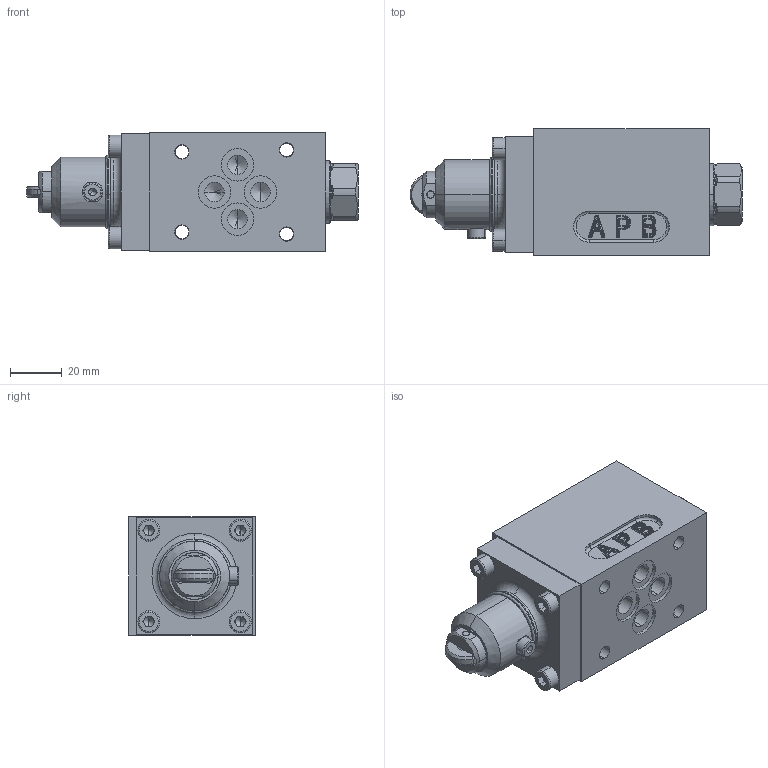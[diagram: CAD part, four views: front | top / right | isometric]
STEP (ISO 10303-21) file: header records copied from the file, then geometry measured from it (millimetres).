
FILE_DESCRIPTION (( 'STEP AP214' ), '1' );
FILE_NAME ('WDTFA06-4_2-Aside.STEP', '2018-06-13T05:15:58', ( '' ), ( '' ), 'SwSTEP 2.0', 'SolidWorks 2016', '' );
FILE_SCHEMA (( 'AUTOMOTIVE_DESIGN' ));
Length unit declared in the file: millimetre
Products named in the file (2): WDTFA06-4_2-Aside
Bounding box: 128.37 x 49 x 46 mm (x, y, z)
Volume: 188345.4 mm3; surface area: 33441.8 mm2
Topology: 4 solids, 10 shells, 755 faces, 1751 edges, 1000 vertices
Faces by surface type: cylinder 276, plane 190, torus 101, cone 69, bspline 62, sphere 57
Entity records: 32818 total; most frequent: CARTESIAN_POINT 7597, DIRECTION 3768, ORIENTED_EDGE 3374, EDGE_CURVE 1687, AXIS2_PLACEMENT_3D 1563, VERTEX_POINT 999, CIRCLE 868, EDGE_LOOP 830
